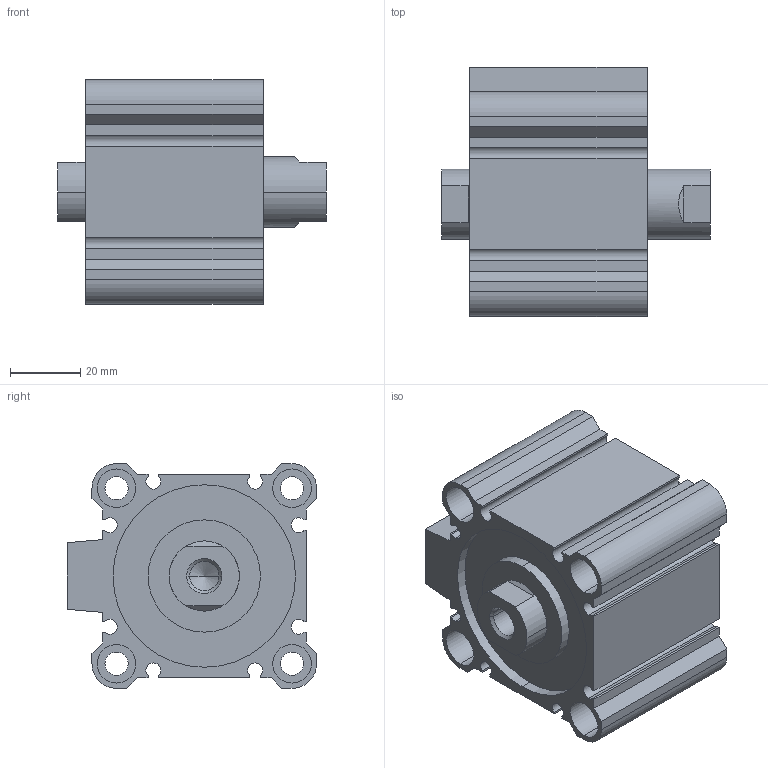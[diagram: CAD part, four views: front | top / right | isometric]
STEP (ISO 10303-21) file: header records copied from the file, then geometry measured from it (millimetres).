
FILE_DESCRIPTION (( 'STEP AP203' ), '1' );
FILE_NAME ('CCMB50-10F-P.STEP', '2020-08-05T11:26:22', ( '' ), ( '' ), 'SwSTEP 2.0', 'SolidWorks 2019', '' );
FILE_SCHEMA (( 'CONFIG_CONTROL_DESIGN' ));
Length unit declared in the file: millimetre
Products named in the file (1): CCMB50-10F-P
Bounding box: 76.5 x 71 x 64 mm (x, y, z)
Volume: 152659.7 mm3; surface area: 51524.7 mm2
Topology: 2 solids, 2 shells, 164 faces, 414 edges, 270 vertices
Faces by surface type: plane 78, cylinder 74, cone 12
Entity records: 5029 total; most frequent: DIRECTION 896, CARTESIAN_POINT 857, ORIENTED_EDGE 820, EDGE_CURVE 410, AXIS2_PLACEMENT_3D 325, VERTEX_POINT 270, LINE 246, VECTOR 246
